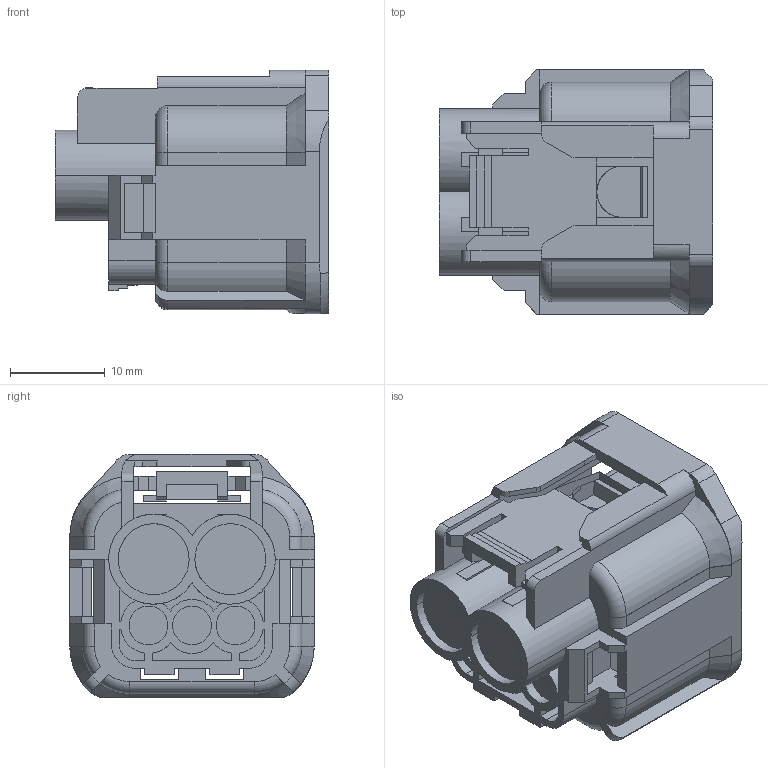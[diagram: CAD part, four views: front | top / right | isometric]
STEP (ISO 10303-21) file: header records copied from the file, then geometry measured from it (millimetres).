
FILE_DESCRIPTION(('CATIA V5 STEP','CAx-IF Rec.Pracs.--- Model Styling and Organization---1.5--- 2016-08-15','CAx-IF Rec.Pracs.---Supplemental Geometry---1.0---2011-11-01','CAx-IF Rec.Pracs.--- Composite Materials ---1.1---2010-07-15'),'2;1');
FILE_NAME('\\192.168.6.3\catia5_db\C-DAM_MyDesk\CONE2\COMMON\HONDA\3D_catalog\HX060_187\HX63+82F-DGR\Δ1\6189-7567.stp','2026-02-20T05:38:26+00:00',('none'),('none'),'CATIA Version 5-6 Release 2022 SP2 HF23','CATIA V5 STEP AP214 v2','none');
FILE_SCHEMA(('AUTOMOTIVE_DESIGN { 1 0 10303 214 1 1 1 1 }'));
Length unit declared in the file: millimetre
Products named in the file (1): 6189-7567
Bounding box: 28.9 x 25.8 x 25.7 mm (x, y, z)
Volume: 8432.4 mm3; surface area: 7059.6 mm2
Topology: 1 solids, 1 shells, 346 faces, 1028 edges, 687 vertices
Faces by surface type: plane 255, cylinder 73, cone 9, torus 9
Entity records: 11139 total; most frequent: CARTESIAN_POINT 2402, ORIENTED_EDGE 2048, DIRECTION 1426, EDGE_CURVE 1024, VECTOR 775, LINE 775, VERTEX_POINT 685, AXIS2_PLACEMENT_3D 420
